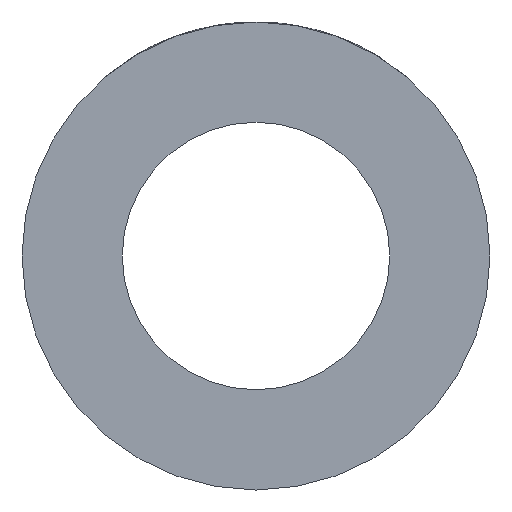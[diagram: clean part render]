
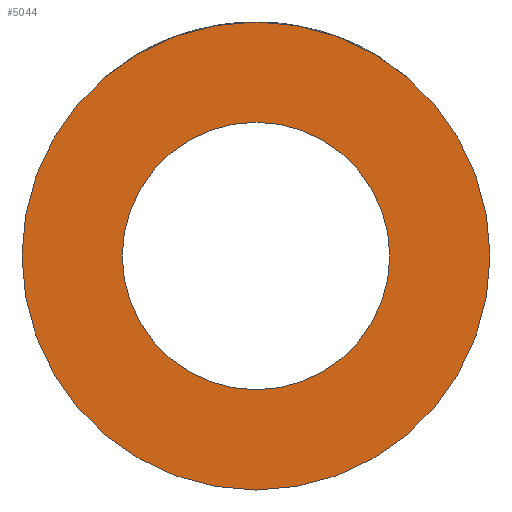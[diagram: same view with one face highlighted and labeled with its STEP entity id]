
A CAD part, left-side view. The second image highlights one B-rep face of the part: STEP entity #5044.
In plain terms, the highlighted planar face has unit normal (-1, 0, 0).
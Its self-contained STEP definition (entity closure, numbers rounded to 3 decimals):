
#114=PLANE('',#5437);
#1187=CIRCLE('',#5436,14.);
#1188=CIRCLE('',#5438,8.);
#1505=ORIENTED_EDGE('',*,*,#3027,.T.);
#1506=ORIENTED_EDGE('',*,*,#3026,.F.);
#3026=EDGE_CURVE('',#3787,#3787,#1187,.T.);
#3027=EDGE_CURVE('',#3788,#3788,#1188,.T.);
#3787=VERTEX_POINT('',#7981);
#3788=VERTEX_POINT('',#7984);
#4296=EDGE_LOOP('',(#1505));
#4297=EDGE_LOOP('',(#1506));
#4664=FACE_BOUND('',#4296,.T.);
#4665=FACE_BOUND('',#4297,.T.);
#5044=ADVANCED_FACE('',(#4664,#4665),#114,.F.);
#5436=AXIS2_PLACEMENT_3D('',#7980,#5960,#5961);
#5437=AXIS2_PLACEMENT_3D('',#7982,#5962,#5963);
#5438=AXIS2_PLACEMENT_3D('',#7983,#5964,#5965);
#5960=DIRECTION('',(1.,0.,0.));
#5961=DIRECTION('',(0.,0.,-1.));
#5962=DIRECTION('',(1.,0.,0.));
#5963=DIRECTION('',(0.,0.,-1.));
#5964=DIRECTION('',(1.,0.,0.));
#5965=DIRECTION('',(0.,0.,-1.));
#7980=CARTESIAN_POINT('',(-35.,0.,0.));
#7981=CARTESIAN_POINT('',(-35.,0.,-14.));
#7982=CARTESIAN_POINT('',(-35.,0.,0.));
#7983=CARTESIAN_POINT('',(-35.,0.,0.));
#7984=CARTESIAN_POINT('',(-35.,0.,-8.));
